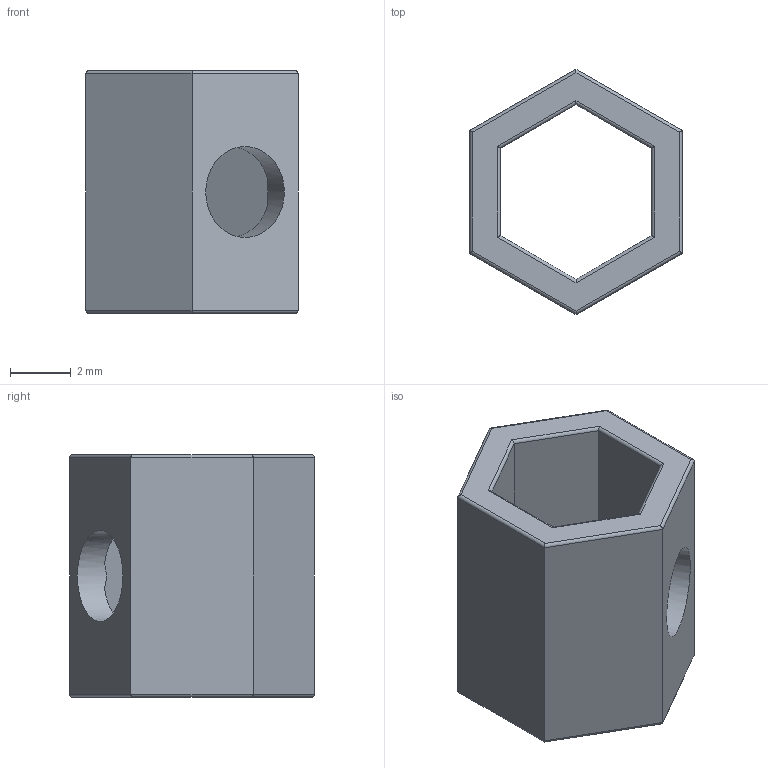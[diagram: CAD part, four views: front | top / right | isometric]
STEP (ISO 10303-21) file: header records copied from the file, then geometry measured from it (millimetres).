
FILE_DESCRIPTION( ('This file contains a STEP AP42 implementation' ,'as created by ZW3D STEP Interface translator.') ,'2;1' );
FILE_NAME( 'BL-5-7HexSpacer.stp' ,'23 7 9.144325', (''), ('ZWCAD Software Co.'), 'Version 1.0', 'ZW3D to STEP translator', '' );
FILE_SCHEMA(('AUTOMOTIVE_DESIGN { 1 0 10303 214 1 1 1 1 }'));
Length unit declared in the file: millimetre
Products named in the file (1): 0
Bounding box: 7 x 8.08 x 8 mm (x, y, z)
Volume: 152 mm3; surface area: 361.2 mm2
Topology: 1 solids, 1 shells, 42 faces, 115 edges, 85 vertices
Faces by surface type: cylinder 26, plane 16
Full cylindrical faces by diameter (mm): 3 x2
Entity records: 1370 total; most frequent: CARTESIAN_POINT 294, ORIENTED_EDGE 204, DIRECTION 186, EDGE_CURVE 102, VECTOR 78, LINE 78, VERTEX_POINT 60, AXIS2_PLACEMENT_3D 54
